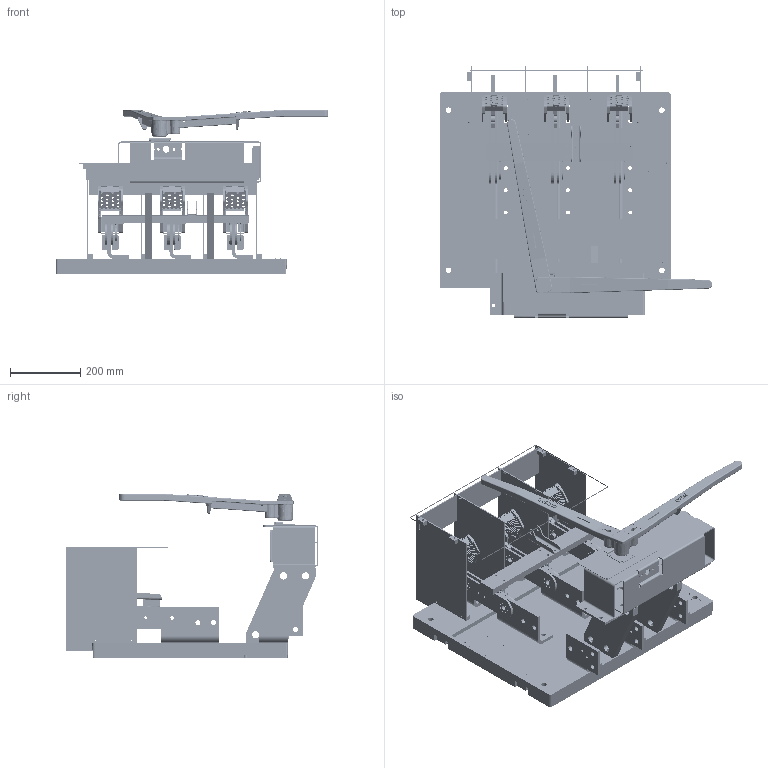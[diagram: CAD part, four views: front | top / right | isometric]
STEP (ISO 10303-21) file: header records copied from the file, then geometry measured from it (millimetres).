
FILE_DESCRIPTION(/* description */ (''),/* implementation_level */ '2;1');
FILE_NAME(/* name */ 'H:\switches\3d-templates\catalog-switches-iges-files\catalog-vl367.stp',/* time_stamp */ '2022-03-22T13:48:33-05:00',/* author */ ('MKingston'),/* organization */ (''),/* preprocessor_version */ 'ST-DEVELOPER v18.1',/* originating_system */ 'Autodesk Inventor 2022',/* authorisation */ '');
FILE_SCHEMA (('AUTOMOTIVE_DESIGN { 1 0 10303 214 3 1 1 }'));
Products named in the file (33): catalog-vl367; 277; 666-d; 666-E; 668-c; 820-bw1; 820-fw3; 223-d-transparent; catalog-blade-assy; 67-AL; 67-AR; 67-gc3; 67-M; 235-b; 230-a; 255-z; catalog-56-qj-arcchute-assy; 363-da; 363-da_MIR; 50-QLX; 50-QRX; 56-QJS; 57-QJSB; 57-QJST; 255-bha; 246-a; 221-RP,R3; 178-c; 255-c; 178-b; 223-d-transparent-red; 672-HA; 223-FE
Assembly tree (57 placements, depth 3):
  catalog-vl367
    277
    666-d  x3
    666-E  x3
    668-c  x3
    820-bw1
    820-fw3
    223-d-transparent
    catalog-blade-assy  x3
      67-AL
      67-AR
      67-gc3
      67-M
    235-b
    230-a
    255-z
    catalog-56-qj-arcchute-assy  x3
      363-da
      363-da_MIR
      50-QLX
      50-QRX
      56-QJS
      57-QJSB
      57-QJST
    255-bha  x4
    246-a  x2
    221-RP,R3
    178-c  x8
    255-c
    178-b  x4
    223-d-transparent-red
    672-HA
    223-FE
Bounding box: 779.42 x 718.82 x 469.37 mm (x, y, z)
Volume: 14348626.8 mm3; surface area: 3615466.4 mm2
Topology: 82 solids, 83 shells, 4395 faces, 11525 edges, 7553 vertices
Faces by surface type: plane 2311, cylinder 1157, bspline 443, cone 428, torus 56
Full cylindrical faces by diameter (mm): 1.702 x8, 3.175 x4, 3.454 x4, 3.683 x8, 3.759 x12, 3.962 x5, 4.305 x42, 4.496 x24, 4.762 x4, 4.775 x8, 4.801 x8, 4.902 x8, 4.915 x24, 4.978 x3, 5.556 x3, 5.791 x6, 6.35 x40, 6.528 x41, 7.137 x3, 7.144 x12, 7.798 x2, 7.938 x18, 8.331 x2, 8.731 x2, 9.601 x2, 9.804 x2, 9.906 x13, 9.922 x8, 10.312 x14, 12.7 x21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
Entity records: 90647 total; most frequent: CARTESIAN_POINT 24014, ORIENTED_EDGE 13658, DIRECTION 13148, EDGE_CURVE 6837, AXIS2_PLACEMENT_3D 4493, VERTEX_POINT 4461, LINE 4162, VECTOR 4162
